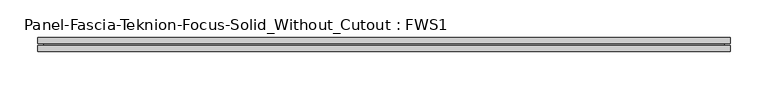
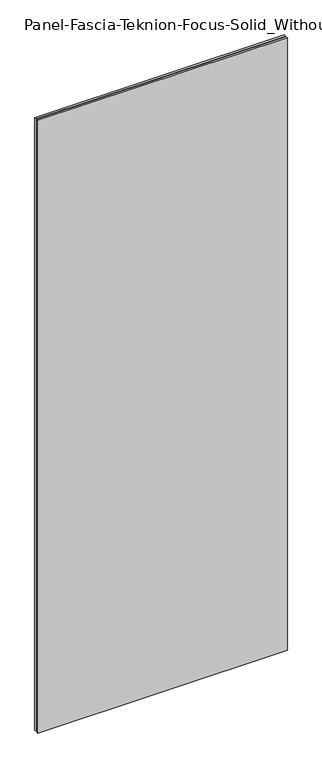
"""IFC4 building model written with IfcOpenShell, lengths in millimetres: proxy geometry, Panel-Fascia-Teknion-Focus-Solid_Without_Cutout : FWS1."""

from ifc_helpers import new_model, si_unit, origin, place, context, project, spatial, faceted_brep, source, transform, mapped, element, save


def panel_fascia_teknion_focus_solid_without_cutout_fws1_36857b67(model_context):
    return source(origin(), model_context, "Body", "Brep", [
        faceted_brep([(457.2, 9.25, 2371.7000194), (-457.2, 9.25, 2371.7000194), (-457.2, 1.5, 2371.7000194), (457.2, 1.5, 2371.7000194), (457.2, -1.5, 2371.7000194), (-457.2, -1.5, 2371.7000194), (-457.2, -9.25, 2371.7000194), (457.2, -9.25, 2371.7000194), (457.2, 9.25, 0.0), (457.2, 1.5, 0.0), (-457.2, 1.5, 0.0), (-457.2, 9.25, 0.0), (-457.2, -1.5, 0.0), (457.2, -1.5, 0.0), (457.2, -9.25, 0.0), (-457.2, -9.25, 0.0), (-449.2, 1.5, 2363.7000194), (449.2, 1.5, 2363.7000194), (449.2, 1.5, 8.0), (-449.2, 1.5, 8.0), (-449.2, -1.5, 8.0), (-449.2, -1.5, 2363.7000194), (449.2, -1.5, 8.0), (449.2, -1.5, 2363.7000194)], [[[0, 1, 2, 3]], [[4, 5, 6, 7]], [[8, 9, 10, 11]], [[12, 13, 14, 15]], [[1, 0, 8, 11]], [[6, 5, 12, 15]], [[7, 6, 15, 14]], [[13, 4, 7, 14]], [[10, 2, 1, 11]], [[3, 2, 10, 9], [16, 17, 18, 19]], [[16, 19, 20, 21]], [[5, 4, 13, 12], [20, 22, 23, 21]], [[23, 22, 18, 17]], [[0, 3, 9, 8]], [[21, 23, 17, 16]], [[22, 20, 19, 18]]]),
    ])


if __name__ == "__main__":
    model = new_model("IFC4")
    model_context = context("Model", 3, world=origin())
    ifc_project = project(units=[si_unit("LENGTHUNIT", "METRE", prefix="MILLI")], contexts=[model_context])
    site = spatial("IfcSite", under=ifc_project)
    building = spatial("IfcBuilding", under=site)
    placement = place(None, origin())
    panel_fascia_teknion_focus_solid_without_cutout_fws1_shape = panel_fascia_teknion_focus_solid_without_cutout_fws1_36857b67(model_context)
    element("IfcBuildingElementProxy", 1, Name="Panel-Fascia-Teknion-Focus-Solid_Without_Cutout : FWS1", ObjectType="Panel-Fascia-Teknion-Focus-Solid_Without_Cutout : FWS1", at=placement, inside=building, context=model_context, shape_type="MappedRepresentation", body=[
        mapped(panel_fascia_teknion_focus_solid_without_cutout_fws1_shape, transform((0.0, 0.0, 0.0), x_axis=(1.0, 0.0, 0.0), y_axis=(0.0, 1.0, 0.0), z_axis=(0.0, 0.0, 1.0))),
    ])
    save(model, "model.ifc")
